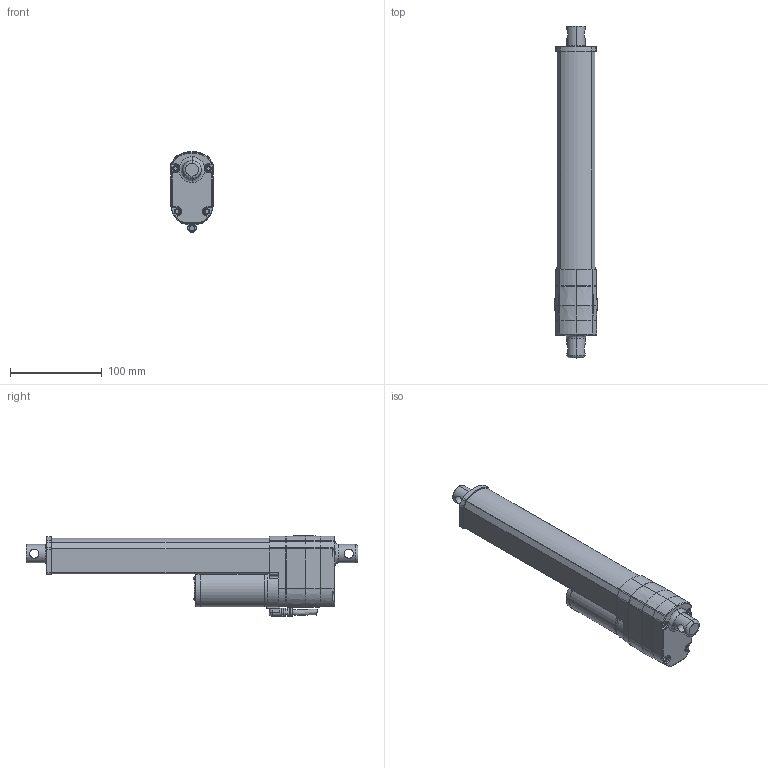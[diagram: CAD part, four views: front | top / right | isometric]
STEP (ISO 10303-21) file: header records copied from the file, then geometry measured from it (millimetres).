
FILE_DESCRIPTION((''),' ');
FILE_NAME('DSZY4-200-POT.stp',' ',('R. Lindner'),('MSW GmbH'),' ','ACIS 14.0',' ');
FILE_SCHEMA(('automotive_design'));
Length unit declared in the file: inch
Products named in the file (9): DSZY4-200-POT|NAUO1#«e»\;NONE; DSZY4-200-POT|NAUO2#¥~ºÞ;¶ñ®Æ-¦ùªø1; DSZY4-200-POT|NAUO3#¨¾Â\Àô;¿é¤J1; DSZY4-200-POT|NAUO4#26x20x5ªo«Ê;¿é¤J1; DSZY4-200-POT|NAUO5#¤ººÞ;¿é¤J1; DSZY4-200-POT|NAUO6#­I»\;¿é¤J1; DSZY4-200-POT|NAUO7#SR;¿é¤J1; DSZY4-200-POT|NAUO8#L3-80-HS°¨¹F;¿é¤J1; DSZY4-200-POT|NAUO9#¤¤¼h;¿é¤J1
Bounding box: 46.12 x 361 x 87.72 mm (x, y, z)
Volume: 334208.6 mm3; surface area: 160275 mm2
Topology: 9 solids, 10 shells, 741 faces, 1962 edges, 1274 vertices
Faces by surface type: cylinder 357, plane 276, cone 62, bspline 46
Entity records: 31479 total; most frequent: CARTESIAN_POINT 6592, DIRECTION 4076, ORIENTED_EDGE 3912, EDGE_CURVE 1956, AXIS2_PLACEMENT_3D 1562, VERTEX_POINT 1274, LINE 952, VECTOR 952
